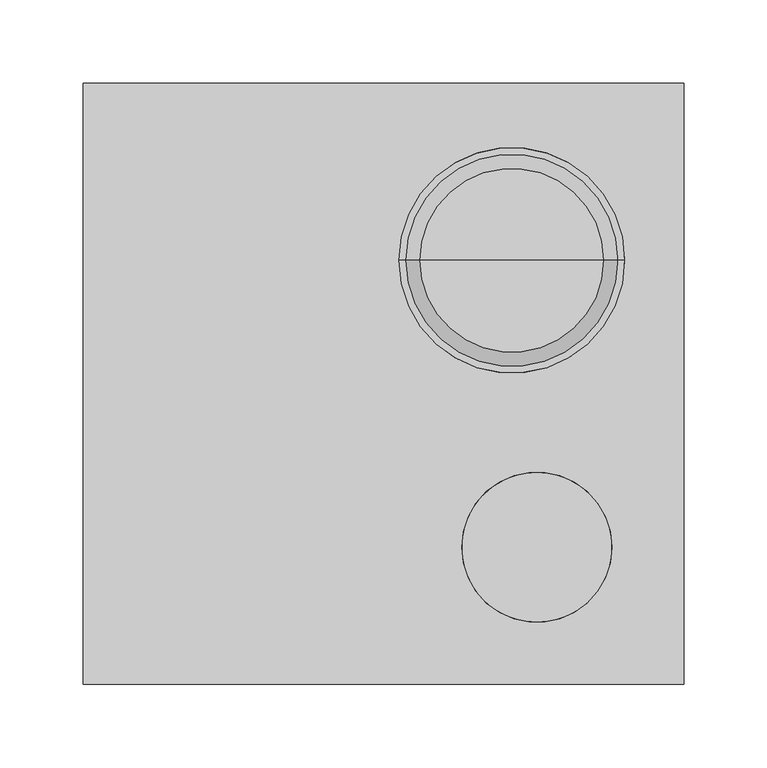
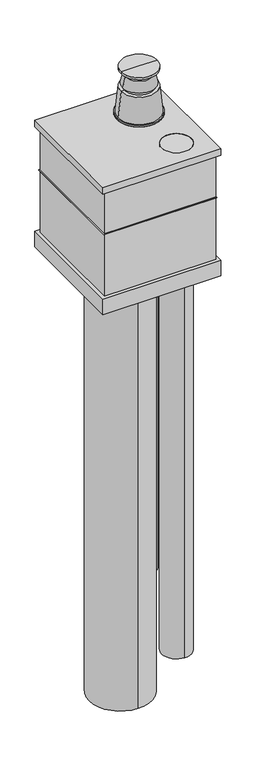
"""IFC4 building model written with IfcOpenShell, lengths in millimetres: proxy geometry, NLRS_50_GM_WPB_Mini-Delta_M&G : SPIEGEL PP 60/100 XL (MIRROR)."""

from ifc_helpers import new_model, si_unit, point, frame, frame_2d, origin, place, context, project, spatial, polyline, circle_curve, trimmed, segment, composite_curve, outline, extrude, faceted_brep, source, transform, mapped, element, save
from ifc_brep_helpers import plane_surface, cylinder_surface, revolved_surface, advanced_brep


def generic_models_b201d552(model_context):
    return source(origin(), model_context, "Body", "SolidModel", [
        advanced_brep(
        [(164.5, 74.0, 568.2650457), (-10.5, 74.0, 568.2650457), (77.0, 74.0, 568.2650457), (144.6156617, 74.0, 677.2650457), (9.3843383, 74.0, 677.2650457), (144.6156617, 74.0, 682.2650457), (9.3843383, 74.0, 682.2650457), (140.6549252, 74.0, 682.2650457), (13.3450748, 74.0, 682.2650457), (132.0, 74.0, 764.611158), (22.0, 74.0, 764.611158), (122.0, 74.0, 764.611158), (32.0, 74.0, 764.611158), (122.0, 74.0, 774.611158), (32.0, 74.0, 774.611158), (127.038744, 74.0, 774.611158), (26.961256, 74.0, 774.611158), (119.5, 74.0, 807.2650457), (34.5, 74.0, 807.2650457), (87.0, 74.0, 807.2650457), (67.0, 74.0, 807.2650457), (87.0, 74.0, 809.2457936), (67.0, 74.0, 809.2457936), (132.0, 74.0, 821.3035072), (22.0, 74.0, 821.3035072), (132.0, 74.0, 827.2650457), (22.0, 74.0, 827.2650457), (77.0, 74.0, 827.2650457)],
        [
            (0, 1, circle_curve(frame((77.0, 74.0, 568.2650457), z_axis=(0.0, 0.0, -1.0), x_axis=(-1.0, 0.0, 0.0)), 87.5)),
            (1, 2),
            (2, 0),
            (1, 0, circle_curve(frame((77.0, 74.0, 568.2650457), z_axis=(0.0, 0.0, -1.0), x_axis=(-1.0, 0.0, 0.0)), 87.5)),
            (3, 4, circle_curve(frame((77.0, 74.0, 677.2650457), z_axis=(0.0, 0.0, -1.0), x_axis=(-1.0, 0.0, 0.0)), 67.6156617)),
            (4, 1),
            (0, 3),
            (4, 3, circle_curve(frame((77.0, 74.0, 677.2650457), z_axis=(0.0, 0.0, -1.0), x_axis=(-1.0, 0.0, 0.0)), 67.6156617)),
            (5, 6, circle_curve(frame((77.0, 74.0, 682.2650457), z_axis=(0.0, 0.0, -1.0), x_axis=(-1.0, 0.0, 0.0)), 67.6156617)),
            (6, 4),
            (3, 5),
            (6, 5, circle_curve(frame((77.0, 74.0, 682.2650457), z_axis=(0.0, 0.0, -1.0), x_axis=(-1.0, 0.0, 0.0)), 67.6156617)),
            (7, 8, circle_curve(frame((77.0, 74.0, 682.2650457), z_axis=(0.0, 0.0, -1.0), x_axis=(-1.0, 0.0, 0.0)), 63.6549252)),
            (8, 6),
            (5, 7),
            (8, 7, circle_curve(frame((77.0, 74.0, 682.2650457), z_axis=(0.0, 0.0, -1.0), x_axis=(-1.0, 0.0, 0.0)), 63.6549252)),
            (9, 10, circle_curve(frame((77.0, 74.0, 764.611158), z_axis=(0.0, 0.0, -1.0), x_axis=(-1.0, 0.0, 0.0)), 55.0)),
            (10, 8),
            (7, 9),
            (10, 9, circle_curve(frame((77.0, 74.0, 764.611158), z_axis=(0.0, 0.0, -1.0), x_axis=(-1.0, 0.0, 0.0)), 55.0)),
            (11, 12, circle_curve(frame((77.0, 74.0, 764.611158), z_axis=(0.0, 0.0, -1.0), x_axis=(-1.0, 0.0, 0.0)), 45.0)),
            (12, 10),
            (9, 11),
            (12, 11, circle_curve(frame((77.0, 74.0, 764.611158), z_axis=(0.0, 0.0, -1.0), x_axis=(-1.0, 0.0, 0.0)), 45.0)),
            (13, 14, circle_curve(frame((77.0, 74.0, 774.611158), z_axis=(0.0, 0.0, -1.0), x_axis=(-1.0, 0.0, 0.0)), 45.0)),
            (14, 12),
            (11, 13),
            (14, 13, circle_curve(frame((77.0, 74.0, 774.611158), z_axis=(0.0, 0.0, -1.0), x_axis=(-1.0, 0.0, 0.0)), 45.0)),
            (15, 16, circle_curve(frame((77.0, 74.0, 774.611158), z_axis=(0.0, 0.0, -1.0), x_axis=(-1.0, 0.0, 0.0)), 50.038744)),
            (16, 14),
            (13, 15),
            (16, 15, circle_curve(frame((77.0, 74.0, 774.611158), z_axis=(0.0, 0.0, -1.0), x_axis=(-1.0, 0.0, 0.0)), 50.038744)),
            (17, 18, circle_curve(frame((77.0, 74.0, 807.2650457), z_axis=(0.0, 0.0, -1.0), x_axis=(-1.0, 0.0, 0.0)), 42.5)),
            (18, 16),
            (15, 17),
            (18, 17, circle_curve(frame((77.0, 74.0, 807.2650457), z_axis=(0.0, 0.0, -1.0), x_axis=(-1.0, 0.0, 0.0)), 42.5)),
            (19, 20, circle_curve(frame((77.0, 74.0, 807.2650457), z_axis=(0.0, 0.0, -1.0), x_axis=(-1.0, 0.0, 0.0)), 10.0)),
            (20, 18),
            (17, 19),
            (20, 19, circle_curve(frame((77.0, 74.0, 807.2650457), z_axis=(0.0, 0.0, -1.0), x_axis=(-1.0, 0.0, 0.0)), 10.0)),
            (21, 22, circle_curve(frame((77.0, 74.0, 809.2457936), z_axis=(0.0, 0.0, -1.0), x_axis=(-1.0, 0.0, 0.0)), 10.0)),
            (22, 20),
            (19, 21),
            (22, 21, circle_curve(frame((77.0, 74.0, 809.2457936), z_axis=(0.0, 0.0, -1.0), x_axis=(-1.0, 0.0, 0.0)), 10.0)),
            (23, 24, circle_curve(frame((77.0, 74.0, 821.3035072), z_axis=(0.0, 0.0, -1.0), x_axis=(-1.0, 0.0, 0.0)), 55.0)),
            (24, 22),
            (21, 23),
            (24, 23, circle_curve(frame((77.0, 74.0, 821.3035072), z_axis=(0.0, 0.0, -1.0), x_axis=(-1.0, 0.0, 0.0)), 55.0)),
            (25, 26, circle_curve(frame((77.0, 74.0, 827.2650457), z_axis=(0.0, 0.0, -1.0), x_axis=(-1.0, 0.0, 0.0)), 55.0)),
            (26, 24),
            (23, 25),
            (26, 25, circle_curve(frame((77.0, 74.0, 827.2650457), z_axis=(0.0, 0.0, -1.0), x_axis=(-1.0, 0.0, 0.0)), 55.0)),
            (27, 26),
            (25, 27),
        ],
        [
            plane_surface(frame((77.0, 74.0, 568.2650457), z_axis=(0.0, 0.0, -1.0), x_axis=(-1.0, 0.0, 0.0))),
            revolved_surface(polyline([(-10.5, 74.0, 568.2650457), (9.3843383, 74.0, 677.2650457)]), (77.0, 74.0, -231.4661326), (0.0, 0.0, 1.0)),
            cylinder_surface(frame((77.0, 74.0, -231.4661326), z_axis=(0.0, 0.0, 1.0), x_axis=(-1.0, 0.0, 0.0)), 67.6156617),
            plane_surface(frame((77.0, 74.0, 682.2650457), z_axis=(0.0, 0.0, 1.0), x_axis=(-1.0, 0.0, 0.0))),
            revolved_surface(polyline([(13.3450748, 74.0, 682.2650457), (22.0, 74.0, 764.611158)]), (77.0, 74.0, -231.4661326), (0.0, 0.0, 1.0)),
            plane_surface(frame((77.0, 74.0, 764.611158), z_axis=(0.0, 0.0, 1.0), x_axis=(-1.0, 0.0, 0.0))),
            cylinder_surface(frame((77.0, 74.0, -231.4661326), z_axis=(0.0, 0.0, 1.0), x_axis=(-1.0, 0.0, 0.0)), 45.0),
            plane_surface(frame((77.0, 74.0, 774.611158), z_axis=(0.0, 0.0, -1.0), x_axis=(-1.0, 0.0, 0.0))),
            revolved_surface(polyline([(26.961256, 74.0, 774.611158), (34.5, 74.0, 807.2650457)]), (77.0, 74.0, -231.4661326), (0.0, 0.0, 1.0)),
            plane_surface(frame((77.0, 74.0, 807.2650457), z_axis=(0.0, 0.0, 1.0), x_axis=(-1.0, 0.0, 0.0))),
            cylinder_surface(frame((77.0, 74.0, -231.4661326), z_axis=(0.0, 0.0, 1.0), x_axis=(-1.0, 0.0, 0.0)), 10.0),
            revolved_surface(polyline([(67.0, 74.0, 809.2457936), (22.0, 74.0, 821.3035072)]), (77.0, 74.0, -231.4661326), (0.0, 0.0, 1.0)),
            cylinder_surface(frame((77.0, 74.0, -231.4661326), z_axis=(0.0, 0.0, 1.0), x_axis=(-1.0, 0.0, 0.0)), 55.0),
            plane_surface(frame((77.0, 74.0, 827.2650457), z_axis=(0.0, 0.0, 1.0), x_axis=(-1.0, 0.0, 0.0))),
        ],
        [
            (0, [[1, 2, 3]]),
            (0, [[4, -3, -2]]),
            (1, [[5, 6, -1, 7]]),
            (1, [[8, -7, -4, -6]]),
            (2, [[9, 10, -5, 11]]),
            (2, [[12, -11, -8, -10]]),
            (3, [[13, 14, -9, 15]]),
            (3, [[16, -15, -12, -14]]),
            (4, [[17, 18, -13, 19]]),
            (4, [[20, -19, -16, -18]]),
            (5, [[21, 22, -17, 23]]),
            (5, [[24, -23, -20, -22]]),
            (6, [[25, 26, -21, 27]]),
            (6, [[28, -27, -24, -26]]),
            (7, [[29, 30, -25, 31]]),
            (7, [[32, -31, -28, -30]]),
            (8, [[33, 34, -29, 35]]),
            (8, [[36, -35, -32, -34]]),
            (9, [[37, 38, -33, 39]]),
            (9, [[40, -39, -36, -38]]),
            (10, [[41, 42, -37, 43]]),
            (10, [[44, -43, -40, -42]]),
            (11, [[45, 46, -41, 47]]),
            (11, [[48, -47, -44, -46]]),
            (12, [[49, 50, -45, 51]]),
            (12, [[52, -51, -48, -50]]),
            (13, [[53, -49, 54]]),
            (13, [[-54, -52, -53]]),
        ],
    ),
        extrude(outline(polyline([(172.5, 172.5), (172.5, -172.5), (-172.5, -172.5), (-172.5, 172.5), (172.5, 172.5)])), frame((0.0, 0.0, 518.2650457), z_axis=(0.0, 0.0, 1.0), x_axis=(1.0, 0.0, 0.0)), (0.0, 0.0, 1.0), 1.3),
        extrude(outline(composite_curve([segment(trimmed(circle_curve(frame_2d((92.0, -98.0)), 45.0), [point((92.0, -143.0))], [point((92.0, -53.0))], False, "CARTESIAN"), True, "CONTINUOUS"), segment(trimmed(circle_curve(frame_2d((92.0, -98.0)), 45.0), [point((92.0, -53.0))], [point((92.0, -143.0))], False, "CARTESIAN"), True, "CONTINUOUS")], self_intersect=False)), frame((0.0, 0.0, -957.7349543), z_axis=(0.0, 0.0, 1.0), x_axis=(1.0, 0.0, 0.0)), (0.0, 0.0, 1.0), 1633.7),
        extrude(outline(composite_curve([segment(trimmed(circle_curve(frame_2d((77.0, 74.0)), 50.0), [point((77.0, 24.0))], [point((77.0, 124.0))], False, "CARTESIAN"), True, "CONTINUOUS"), segment(trimmed(circle_curve(frame_2d((77.0, 74.0)), 50.0), [point((77.0, 124.0))], [point((77.0, 24.0))], False, "CARTESIAN"), True, "CONTINUOUS")], self_intersect=False)), frame((0.0, 0.0, -791.7349543), z_axis=(0.0, 0.0, 1.0), x_axis=(1.0, 0.0, 0.0)), (0.0, 0.0, 1.0), 1449.0),
        extrude(outline(composite_curve([segment(trimmed(circle_curve(frame_2d((-42.0, -33.0)), 95.0), [point((-42.0, -128.0))], [point((-42.0, 62.0))], False, "CARTESIAN"), True, "CONTINUOUS"), segment(trimmed(circle_curve(frame_2d((-42.0, -33.0)), 95.0), [point((-42.0, 62.0))], [point((-42.0, -128.0))], False, "CARTESIAN"), True, "CONTINUOUS")], self_intersect=False)), frame((0.0, 0.0, -1083.7349543), z_axis=(0.0, 0.0, 1.0), x_axis=(1.0, 0.0, 0.0)), (0.0, 0.0, 1.0), 1500.0),
        advanced_brep(
        [(180.0, 180.0, 677.2650457), (-180.0, 180.0, 677.2650457), (-180.0, -180.0, 677.2650457), (180.0, -180.0, 677.2650457), (47.0, -98.0, 677.2650457), (137.0, -98.0, 677.2650457), (180.0, 180.0, 657.2650457), (180.0, -180.0, 657.2650457), (-180.0, -180.0, 657.2650457), (-180.0, 180.0, 657.2650457), (178.7, 178.7, 657.2650457), (-178.7, 178.7, 657.2650457), (-178.7, -178.7, 657.2650457), (178.7, -178.7, 657.2650457), (170.0, 170.0, 657.2650457), (170.0, -170.0, 657.2650457), (-170.0, -170.0, 657.2650457), (-170.0, 170.0, 657.2650457), (168.7, -168.7, 657.2650457), (168.7, 168.7, 657.2650457), (-168.7, 168.7, 657.2650457), (-168.7, -168.7, 657.2650457), (178.7, 178.7, 675.9650457), (178.7, -178.7, 675.9650457), (-178.7, -178.7, 675.9650457), (-178.7, 178.7, 675.9650457), (170.0, 170.0, 675.9650457), (-170.0, 170.0, 675.9650457), (-170.0, -170.0, 675.9650457), (170.0, -170.0, 675.9650457), (168.7, -168.7, 675.9650457), (-168.7, -168.7, 675.9650457), (-168.7, 168.7, 675.9650457), (168.7, 168.7, 675.9650457), (137.0, -98.0, 675.9650457), (47.0, -98.0, 675.9650457)],
        [
            (0, 1),
            (1, 2),
            (2, 3),
            (3, 0),
            (4, 5, circle_curve(frame((92.0, -98.0, 677.2650457), z_axis=(0.0, 0.0, -1.0), x_axis=(1.0, 0.0, 0.0)), 45.0)),
            (5, 4, circle_curve(frame((92.0, -98.0, 677.2650457), z_axis=(0.0, 0.0, -1.0), x_axis=(1.0, 0.0, 0.0)), 45.0)),
            (6, 7),
            (7, 8),
            (8, 9),
            (9, 6),
            (10, 11),
            (11, 12),
            (12, 13),
            (13, 10),
            (14, 15),
            (15, 16),
            (16, 17),
            (17, 14),
            (18, 19),
            (19, 20),
            (20, 21),
            (21, 18),
            (0, 6),
            (9, 1),
            (8, 2),
            (7, 3),
            (22, 23),
            (23, 24),
            (24, 25),
            (25, 22),
            (26, 27),
            (27, 28),
            (28, 29),
            (29, 26),
            (30, 31),
            (31, 32),
            (32, 33),
            (33, 30),
            (34, 35, circle_curve(frame((92.0, -98.0, 675.9650457), z_axis=(0.0, 0.0, 1.0), x_axis=(1.0, 0.0, 0.0)), 45.0)),
            (35, 34, circle_curve(frame((92.0, -98.0, 675.9650457), z_axis=(0.0, 0.0, 1.0), x_axis=(1.0, 0.0, 0.0)), 45.0)),
            (25, 11),
            (10, 22),
            (24, 12),
            (23, 13),
            (29, 15),
            (14, 26),
            (28, 16),
            (27, 17),
            (33, 19),
            (18, 30),
            (32, 20),
            (31, 21),
            (4, 35),
            (34, 5),
        ],
        [
            plane_surface(frame((-180.0, 180.0, 677.2650457), z_axis=(0.0, 0.0, 1.0), x_axis=(-1.0, 0.0, 0.0))),
            plane_surface(frame((-180.0, 180.0, 657.2650457), z_axis=(0.0, 0.0, -1.0), x_axis=(1.0, 0.0, 0.0))),
            plane_surface(frame((180.0, 180.0, 677.2650457), z_axis=(0.0, 1.0, 0.0), x_axis=(0.0, 0.0, -1.0))),
            plane_surface(frame((-180.0, 180.0, 677.2650457), z_axis=(-1.0, 0.0, 0.0), x_axis=(0.0, 0.0, -1.0))),
            plane_surface(frame((-180.0, -180.0, 677.2650457), z_axis=(0.0, -1.0, 0.0), x_axis=(0.0, 0.0, -1.0))),
            plane_surface(frame((180.0, -180.0, 677.2650457), z_axis=(1.0, 0.0, 0.0), x_axis=(0.0, 0.0, -1.0))),
            plane_surface(frame((-170.0, 178.7, 675.9650457), z_axis=(0.0, 0.0, -1.0), x_axis=(-1.0, 0.0, 0.0))),
            plane_surface(frame((178.7, 178.7, 675.9650457), z_axis=(0.0, -1.0, 0.0), x_axis=(0.0, 0.0, -1.0))),
            plane_surface(frame((-178.7, 178.7, 675.9650457), z_axis=(1.0, 0.0, 0.0), x_axis=(0.0, 0.0, -1.0))),
            plane_surface(frame((-178.7, -178.7, 675.9650457), z_axis=(0.0, 1.0, 0.0), x_axis=(0.0, 0.0, -1.0))),
            plane_surface(frame((178.7, -178.7, 675.9650457), z_axis=(-1.0, 0.0, 0.0), x_axis=(0.0, 0.0, -1.0))),
            plane_surface(frame((170.0, 170.0, 675.9650457), z_axis=(1.0, 0.0, 0.0), x_axis=(0.0, 0.0, -1.0))),
            plane_surface(frame((170.0, -170.0, 675.9650457), z_axis=(0.0, -1.0, 0.0), x_axis=(0.0, 0.0, -1.0))),
            plane_surface(frame((-170.0, -170.0, 675.9650457), z_axis=(-1.0, 0.0, 0.0), x_axis=(0.0, 0.0, -1.0))),
            plane_surface(frame((-170.0, 170.0, 675.9650457), z_axis=(0.0, 1.0, 0.0), x_axis=(0.0, 0.0, -1.0))),
            plane_surface(frame((168.7, -168.7, 675.9650457), z_axis=(-1.0, 0.0, 0.0), x_axis=(0.0, 0.0, -1.0))),
            plane_surface(frame((168.7, 168.7, 675.9650457), z_axis=(0.0, -1.0, 0.0), x_axis=(0.0, 0.0, -1.0))),
            plane_surface(frame((-168.7, 168.7, 675.9650457), z_axis=(1.0, 0.0, 0.0), x_axis=(0.0, 0.0, -1.0))),
            plane_surface(frame((-168.7, -168.7, 675.9650457), z_axis=(0.0, 1.0, 0.0), x_axis=(0.0, 0.0, -1.0))),
            revolved_surface(polyline([(137.0, -98.0, 675.9650457), (137.0, -98.0, 677.2650457)]), (92.0, -98.0, 657.2650457), (0.0, 0.0, -1.0)),
        ],
        [
            (0, [[1, 2, 3, 4], [5, 6]]),
            (1, [[7, 8, 9, 10], [11, 12, 13, 14]]),
            (1, [[15, 16, 17, 18], [19, 20, 21, 22]]),
            (2, [[-1, 23, -10, 24]]),
            (3, [[-2, -24, -9, 25]]),
            (4, [[-3, -25, -8, 26]]),
            (5, [[-4, -26, -7, -23]]),
            (6, [[27, 28, 29, 30], [31, 32, 33, 34]]),
            (6, [[35, 36, 37, 38], [39, 40]]),
            (7, [[-30, 41, -11, 42]]),
            (8, [[-29, 43, -12, -41]]),
            (9, [[-28, 44, -13, -43]]),
            (10, [[-27, -42, -14, -44]]),
            (11, [[-34, 45, -15, 46]]),
            (12, [[-33, 47, -16, -45]]),
            (13, [[-32, 48, -17, -47]]),
            (14, [[-31, -46, -18, -48]]),
            (15, [[-38, 49, -19, 50]]),
            (16, [[-37, 51, -20, -49]]),
            (17, [[-36, 52, -21, -51]]),
            (18, [[-35, -50, -22, -52]]),
            (19, [[53, -39, 54, -5]]),
            (19, [[-53, -6, -54, -40]]),
        ],
    ),
        faceted_brep([(170.0, 170.0, 675.9650457), (-170.0, 170.0, 675.9650457), (-170.0, -170.0, 675.9650457), (170.0, -170.0, 675.9650457), (168.7, 168.7, 675.9650457), (168.7, -168.7, 675.9650457), (-168.7, -168.7, 675.9650457), (-168.7, 168.7, 675.9650457), (170.0, 170.0, 318.2650457), (170.0, -170.0, 318.2650457), (-170.0, -170.0, 318.2650457), (-170.0, 170.0, 318.2650457), (168.7, 168.7, 318.2650457), (-168.7, 168.7, 318.2650457), (-168.7, -168.7, 318.2650457), (168.7, -168.7, 318.2650457), (170.0, 170.0, 657.2650457), (-170.0, 170.0, 657.2650457), (-170.0, -170.0, 657.2650457), (170.0, -170.0, 657.2650457), (168.7, 168.7, 657.2650457), (168.7, -168.7, 657.2650457), (-168.7, -168.7, 657.2650457), (-168.7, 168.7, 657.2650457)], [[[0, 1, 2, 3], [4, 5, 6, 7]], [[8, 9, 10, 11], [12, 13, 14, 15]], [[1, 0, 16, 8, 11, 17]], [[2, 1, 17, 11, 10, 18]], [[3, 2, 18, 10, 9, 19]], [[0, 3, 19, 9, 8, 16]], [[5, 4, 20, 12, 15, 21]], [[6, 5, 21, 15, 14, 22]], [[7, 6, 22, 14, 13, 23]], [[4, 7, 23, 13, 12, 20]]]),
        faceted_brep([(180.0, 180.0, 268.2650457), (180.0, -180.0, 268.2650457), (-180.0, -180.0, 268.2650457), (-180.0, 180.0, 268.2650457), (178.7, 178.7, 268.2650457), (-178.7, 178.7, 268.2650457), (-178.7, -178.7, 268.2650457), (178.7, -178.7, 268.2650457), (180.0, 180.0, 318.2650457), (-180.0, 180.0, 318.2650457), (-180.0, -180.0, 318.2650457), (180.0, -180.0, 318.2650457), (178.7, 178.7, 316.9650457), (178.7, -178.7, 316.9650457), (-178.7, -178.7, 316.9650457), (-178.7, 178.7, 316.9650457)], [[[0, 1, 2, 3], [4, 5, 6, 7]], [[8, 9, 10, 11]], [[0, 3, 9, 8]], [[3, 2, 10, 9]], [[2, 1, 11, 10]], [[1, 0, 8, 11]], [[12, 13, 14, 15]], [[12, 15, 5, 4]], [[15, 14, 6, 5]], [[14, 13, 7, 6]], [[13, 12, 4, 7]]]),
    ])


if __name__ == "__main__":
    model = new_model("IFC4")
    model_context = context("Model", 3, world=origin())
    ifc_project = project(units=[si_unit("LENGTHUNIT", "METRE", prefix="MILLI")], contexts=[model_context])
    site = spatial("IfcSite", under=ifc_project)
    building = spatial("IfcBuilding", under=site)
    placement = place(None, origin())
    generic_models_shape = generic_models_b201d552(model_context)
    element("IfcBuildingElementProxy", 1, Name="NLRS_50_GM_WPB_Mini-Delta_M&G : SPIEGEL PP 60/100 XL (MIRROR)", ObjectType="NLRS_50_GM_WPB_Mini-Delta_M&G : SPIEGEL PP 60/100 XL (MIRROR)", at=placement, inside=building, context=model_context, shape_type="MappedRepresentation", body=[
        mapped(generic_models_shape, transform((0.0, 0.0, 0.0), x_axis=(1.0, 0.0, 0.0), y_axis=(0.0, 1.0, 0.0), z_axis=(0.0, 0.0, 1.0))),
    ])
    save(model, "model.ifc")
